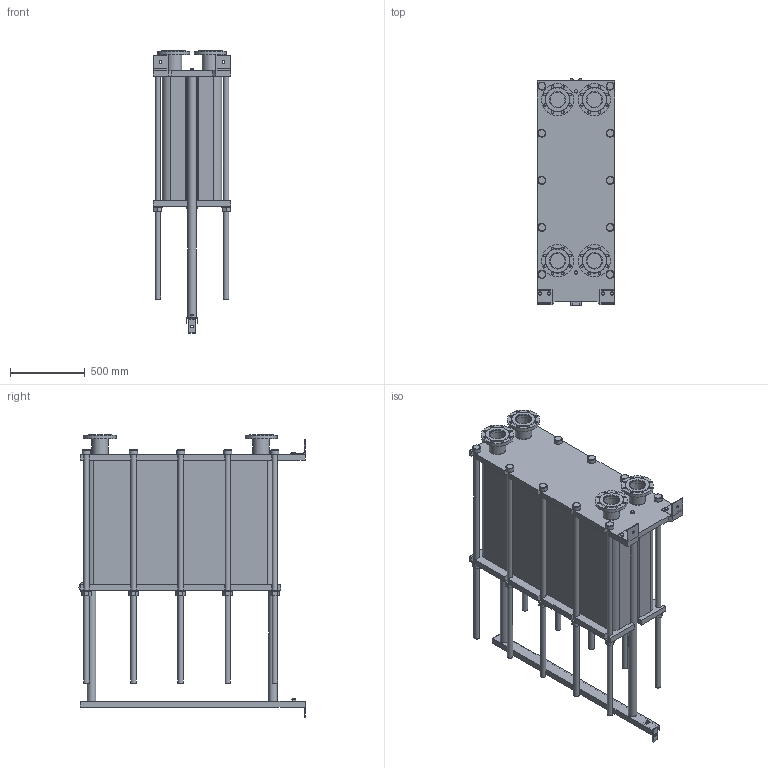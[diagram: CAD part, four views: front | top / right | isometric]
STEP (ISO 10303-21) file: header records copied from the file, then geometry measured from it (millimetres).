
FILE_DESCRIPTION(/* description */ (''),/* implementation_level */ '2;1');
FILE_NAME(/* name */ 'C:\Users\zhuro\Desktop\ENCO\TO\ЭН-04\ЭН-0,5-04-240-1.stp',/* time_stamp */ '2022-06-06T11:06:14+03:00',/* author */ ('zhuro'),/* organization */ (''),/* preprocessor_version */ 'ST-DEVELOPER v18.1',/* originating_system */ 'Autodesk Inventor 2022',/* authorisation */ '');
FILE_SCHEMA (('AUTOMOTIVE_DESIGN { 1 0 10303 214 3 1 1 }'));
Length unit declared in the file: millimetre
Products named in the file (1): ЭН-0,5-04-240-1
Bounding box: 520 x 1510 x 1885 mm (x, y, z)
Volume: 492540296.3 mm3; surface area: 11433875.2 mm2
Topology: 45 solids, 45 shells, 668 faces, 1611 edges, 1048 vertices
Faces by surface type: plane 457, cylinder 166, cone 39, torus 6
Full cylindrical faces by diameter (mm): 8 x4, 10 x2, 16 x8, 18 x35, 36 x25, 40 x2, 42 x1, 45 x4, 54 x10, 57 x2, 60 x10, 68 x2, 100 x4, 110 x8, 215 x4
Entity records: 23607 total; most frequent: CARTESIAN_POINT 7348, DIRECTION 3371, ORIENTED_EDGE 3142, EDGE_CURVE 1571, AXIS2_PLACEMENT_3D 1199, VERTEX_POINT 1044, LINE 973, VECTOR 973
